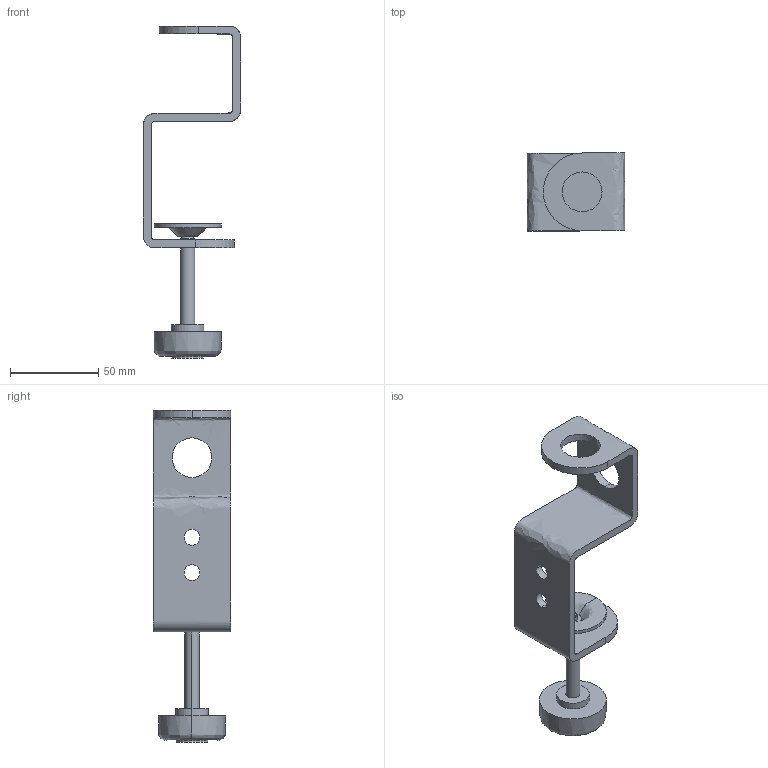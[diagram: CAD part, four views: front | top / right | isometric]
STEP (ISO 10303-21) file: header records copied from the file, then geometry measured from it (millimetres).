
FILE_DESCRIPTION (( 'STEP AP203' ), '1' );
FILE_NAME ('Assembly Bracket.STEP', '2017-02-22T08:10:12', ( '' ), ( '' ), 'SwSTEP 2.0', 'SolidWorks 2015', '' );
FILE_SCHEMA (( 'CONFIG_CONTROL_DESIGN' ));
Length unit declared in the file: millimetre
Products named in the file (4): Fitting Plate; Assembly Bracket; Tightening Screw; Bracket 
Assembly tree (3 placements, depth 2):
  Assembly Bracket
    Tightening Screw
    Bracket 
    Fitting Plate
Bounding box: 55 x 44 x 187.9 mm (x, y, z)
Volume: 64210.5 mm3; surface area: 31193.7 mm2
Topology: 3 solids, 3 shells, 46 faces, 103 edges, 64 vertices
Faces by surface type: cylinder 25, bspline 9, plane 8, cone 4
Entity records: 2120 total; most frequent: CARTESIAN_POINT 682, DIRECTION 233, ORIENTED_EDGE 206, EDGE_CURVE 103, AXIS2_PLACEMENT_3D 99, VERTEX_POINT 64, EDGE_LOOP 59, CIRCLE 56
